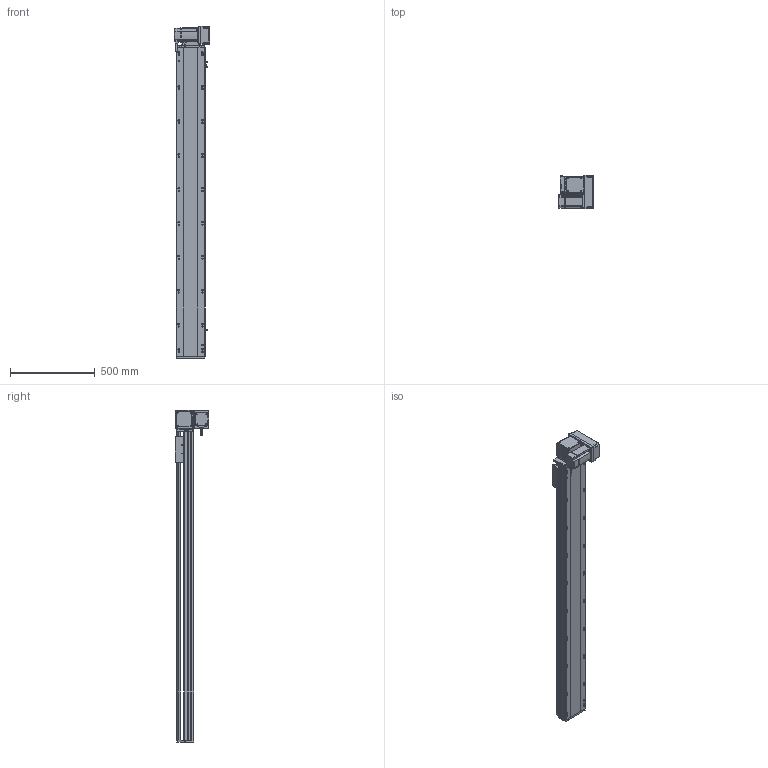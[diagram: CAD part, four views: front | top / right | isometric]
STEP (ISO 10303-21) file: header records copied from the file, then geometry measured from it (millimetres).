
FILE_DESCRIPTION (( 'STEP AP214' ), '1' );
FILE_NAME ('RTB17S-XX-1550-RM-M75-C4.STEP', '2025-12-12T02:09:30', ( '' ), ( '' ), 'SwSTEP 2.0', 'SolidWorks 2018', '' );
FILE_SCHEMA (( 'AUTOMOTIVE_DESIGN' ));
Length unit declared in the file: millimetre
Products named in the file (15): RTB17S-XX-1550-RM-M75-C4; RTB17-R-011菁釱^RTB17S-XX-XX-RM-M75-C4; RTB22S-GY-008-M75--萇儂啣^RTB17S-RM-々湍釱蚾饜-750W_RTB17S-XX-XX-RM-M75-C4; EE672^RTB17S-XX-XX-RM-M75-C4; RTB17S-賑釱^RTB17S-XX-XX-RM-M75-C4; RTB17S-L-007奻裔^RTB17S-XX-XX-RM-M75-C4; RTB17S-L-001-耜醱啣^RTB17S-XX-XX-RM-M75-C4; RTB22S-GY-005P^RTB17S-RM-々湍釱蚾饜-750W_RTB17S-XX-XX-RM-M75-C4; RTH13-BL-012覜茼え俋离^RTB17S-賑釱_RTB17S-XX-XX-RM-M75-C4; RTB17S-L-014-T20-P75--々湍釱^RTB17S-RM-々湍釱蚾饜-750W_RTB17S-XX-XX-RM-M75-C4; RTB22S-GY-018P^RTB17S-RM-々湍釱蚾饜-750W_RTB17S-XX-XX-RM-M75-C4; RTB17S-L-004-賑釱^RTB17S-賑釱_RTB17S-XX-XX-RM-M75-C4; 750W萇儂^RTB17S-XX-XX-RM-M75-C4; RTB17S-RM-々湍釱蚾饜-750W^RTB17S-XX-XX-RM-M75-C4; RTB22S-GY-017P^RTB17S-RM-々湍釱蚾饜-750W_RTB17S-XX-XX-RM-M75-C4
Assembly tree (17 placements, depth 3):
  RTB17S-XX-1550-RM-M75-C4
    RTB17-R-011菁釱^RTB17S-XX-XX-RM-M75-C4
    EE672^RTB17S-XX-XX-RM-M75-C4  x3
    RTB17S-L-001-耜醱啣^RTB17S-XX-XX-RM-M75-C4
    RTB17S-賑釱^RTB17S-XX-XX-RM-M75-C4
      RTB17S-L-004-賑釱^RTB17S-賑釱_RTB17S-XX-XX-RM-M75-C4
      RTH13-BL-012覜茼え俋离^RTB17S-賑釱_RTB17S-XX-XX-RM-M75-C4
    RTB17S-L-007奻裔^RTB17S-XX-XX-RM-M75-C4
    750W萇儂^RTB17S-XX-XX-RM-M75-C4
    RTB17S-RM-々湍釱蚾饜-750W^RTB17S-XX-XX-RM-M75-C4
      RTB17S-L-014-T20-P75--々湍釱^RTB17S-RM-々湍釱蚾饜-750W_RTB17S-XX-XX-RM-M75-C4
      RTB22S-GY-005P^RTB17S-RM-々湍釱蚾饜-750W_RTB17S-XX-XX-RM-M75-C4
      RTB22S-GY-017P^RTB17S-RM-々湍釱蚾饜-750W_RTB17S-XX-XX-RM-M75-C4  x2
      RTB22S-GY-008-M75--萇儂啣^RTB17S-RM-々湍釱蚾饜-750W_RTB17S-XX-XX-RM-M75-C4
      RTB22S-GY-018P^RTB17S-RM-々湍釱蚾饜-750W_RTB17S-XX-XX-RM-M75-C4
Bounding box: 207.4 x 200 x 1957.5 mm (x, y, z)
Volume: 15639276.4 mm3; surface area: 2746500.1 mm2
Topology: 17 solids, 17 shells, 2137 faces, 5944 edges, 3842 vertices
Faces by surface type: plane 976, cylinder 745, bspline 294, cone 110, sphere 8, torus 4
Entity records: 60406 total; most frequent: CARTESIAN_POINT 17808, ORIENTED_EDGE 8732, DIRECTION 8132, EDGE_CURVE 4366, AXIS2_PLACEMENT_3D 2862, VERTEX_POINT 2846, LINE 2408, VECTOR 2408
